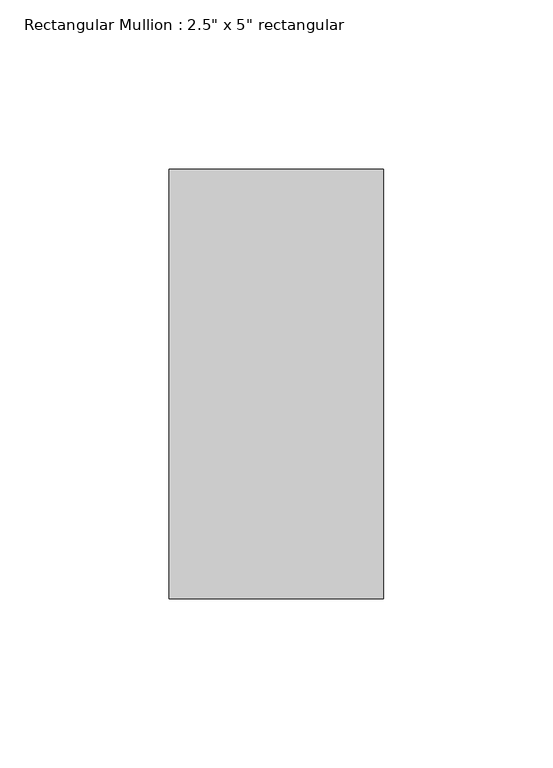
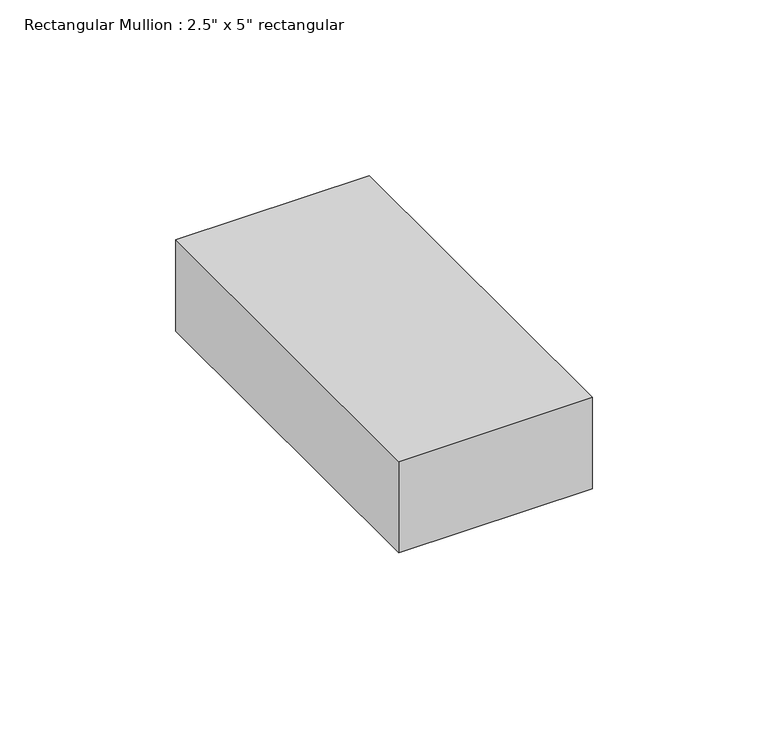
"""IFC4 building model written with IfcOpenShell, lengths in millimetres: member geometry."""

from ifc_helpers import new_model, si_unit, frame, origin, place, context, project, spatial, polyline, outline, extrude, source, transform, mapped, element, save


def member_bbfb4d53(model_context):
    return source(origin(), model_context, "Body", "SweptSolid", [
        extrude(outline(polyline([(0.0, 63.5), (0.0, -63.5), (-63.5, -63.5), (-63.5, 63.5), (0.0, 63.5)])), frame((0.0, 0.0, -31.75), z_axis=(0.0, 0.0, 1.0), x_axis=(1.0, 0.0, 0.0)), (0.0, 0.0, 1.0), 31.75),
    ])


if __name__ == "__main__":
    model = new_model("IFC4")
    model_context = context("Model", 3, world=origin())
    ifc_project = project(units=[si_unit("LENGTHUNIT", "METRE", prefix="MILLI")], contexts=[model_context])
    site = spatial("IfcSite", under=ifc_project)
    building = spatial("IfcBuilding", under=site)
    placement = place(None, origin())
    member_shape = member_bbfb4d53(model_context)
    element("IfcMember", 1, ObjectType="Rectangular Mullion : 2.5\" x 5\" rectangular", at=placement, inside=building, context=model_context, shape_type="MappedRepresentation", body=[
        mapped(member_shape, transform((0.0, 0.0, 0.0), x_axis=(1.0, 0.0, 0.0), y_axis=(0.0, 1.0, 0.0), z_axis=(0.0, 0.0, 1.0))),
    ])
    save(model, "model.ifc")
